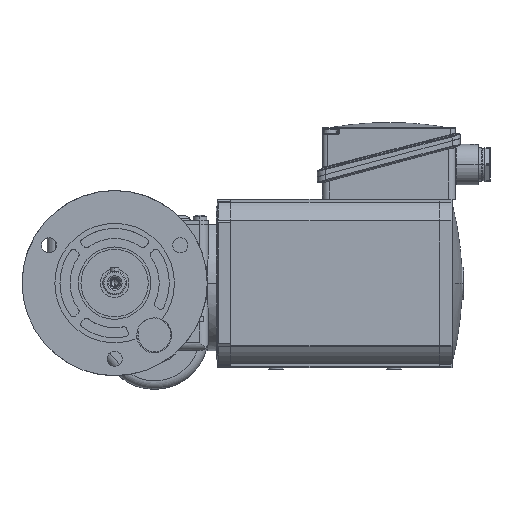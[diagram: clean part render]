
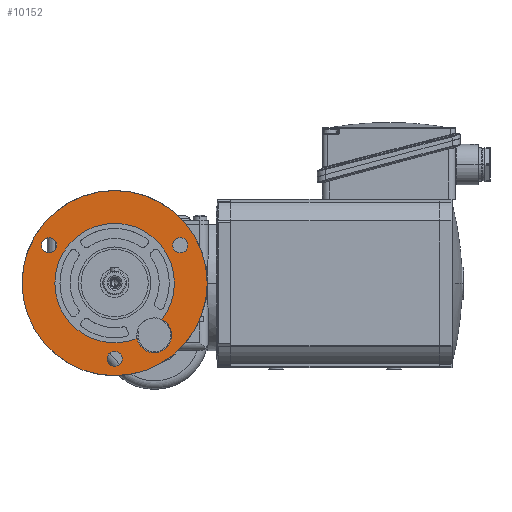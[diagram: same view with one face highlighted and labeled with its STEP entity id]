
A CAD part, top view. The second image highlights one B-rep face of the part: STEP entity #10152.
In plain terms, the highlighted planar face has unit normal (0, 0, 1).
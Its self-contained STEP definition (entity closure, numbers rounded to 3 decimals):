
#10152=ADVANCED_FACE('NONE',(#16752,#16753,#16754,#16755,#16756),#16757,.F.);
#16752=FACE_OUTER_BOUND('',#28414,.T.);
#16753=FACE_BOUND('',#28415,.T.);
#16754=FACE_BOUND('',#28416,.T.);
#16755=FACE_BOUND('',#28417,.T.);
#16756=FACE_BOUND('',#28418,.T.);
#16757=PLANE('',#28419);
#28414=EDGE_LOOP('',(#36745,#36746));
#28415=EDGE_LOOP('',(#36747,#36748));
#28416=EDGE_LOOP('',(#36749,#36750));
#28417=EDGE_LOOP('',(#36751,#36752));
#28418=EDGE_LOOP('',(#36753,#36754,#36755,#36756,#36757));
#28419=AXIS2_PLACEMENT_3D('',#36758,#36759,#36760);
#36745=ORIENTED_EDGE('',*,*,#46363,.T.);
#36746=ORIENTED_EDGE('',*,*,#46364,.T.);
#36747=ORIENTED_EDGE('',*,*,#44695,.F.);
#36748=ORIENTED_EDGE('',*,*,#45079,.F.);
#36749=ORIENTED_EDGE('',*,*,#46365,.F.);
#36750=ORIENTED_EDGE('',*,*,#46366,.F.);
#36751=ORIENTED_EDGE('',*,*,#46367,.F.);
#36752=ORIENTED_EDGE('',*,*,#46368,.F.);
#36753=ORIENTED_EDGE('',*,*,#46369,.F.);
#36754=ORIENTED_EDGE('',*,*,#46370,.F.);
#36755=ORIENTED_EDGE('',*,*,#45521,.F.);
#36756=ORIENTED_EDGE('',*,*,#46371,.F.);
#36757=ORIENTED_EDGE('',*,*,#46261,.F.);
#36758=CARTESIAN_POINT('',(-56.5,35.5,75.));
#36759=DIRECTION('',(0.0,0.,-1.0));
#36760=DIRECTION('',(0.0,-1.0,0.));
#44695=EDGE_CURVE('NONE',#51828,#51824,#51830,.T.);
#45079=EDGE_CURVE('NONE',#51824,#51828,#52477,.T.);
#45521=EDGE_CURVE('NONE',#53219,#53221,#53222,.T.);
#46261=EDGE_CURVE('NONE',#54433,#54435,#54436,.T.);
#46363=EDGE_CURVE('NONE',#54600,#54601,#54602,.T.);
#46364=EDGE_CURVE('NONE',#54601,#54600,#54603,.T.);
#46365=EDGE_CURVE('NONE',#54604,#54605,#54606,.T.);
#46366=EDGE_CURVE('NONE',#54605,#54604,#54607,.T.);
#46367=EDGE_CURVE('NONE',#54608,#54609,#54610,.T.);
#46368=EDGE_CURVE('NONE',#54609,#54608,#54611,.T.);
#46369=EDGE_CURVE('NONE',#54612,#54433,#54613,.T.);
#46370=EDGE_CURVE('NONE',#53221,#54612,#54614,.T.);
#46371=EDGE_CURVE('NONE',#54435,#53219,#54615,.T.);
#51824=VERTEX_POINT('',#63561);
#51828=VERTEX_POINT('',#63566);
#51830=CIRCLE('',#63569,4.5);
#52477=CIRCLE('',#64743,4.5);
#53219=VERTEX_POINT('',#66105);
#53221=VERTEX_POINT('',#66108);
#53222=CIRCLE('',#66109,35.5);
#54433=VERTEX_POINT('',#68079);
#54435=VERTEX_POINT('NONE',#68082);
#54436=CIRCLE('',#68083,10.35);
#54600=VERTEX_POINT('',#68391);
#54601=VERTEX_POINT('',#68392);
#54602=CIRCLE('',#68393,55.0);
#54603=CIRCLE('',#68394,55.0);
#54604=VERTEX_POINT('',#68395);
#54605=VERTEX_POINT('',#68396);
#54606=CIRCLE('',#68397,4.5);
#54607=CIRCLE('',#68398,4.5);
#54608=VERTEX_POINT('',#68399);
#54609=VERTEX_POINT('',#68400);
#54610=CIRCLE('',#68401,4.5);
#54611=CIRCLE('',#68402,4.5);
#54612=VERTEX_POINT('NONE',#68403);
#54613=CIRCLE('',#68404,10.35);
#54614=CIRCLE('',#68405,35.5);
#54615=CIRCLE('',#68406,35.5);
#63561=CARTESIAN_POINT('',(-13.029,22.5,75.));
#63566=CARTESIAN_POINT('',(-22.029,22.5,75.));
#63569=AXIS2_PLACEMENT_3D('',#84851,#84852,#84853);
#64743=AXIS2_PLACEMENT_3D('',#85338,#85339,#85340);
#66105=CARTESIAN_POINT('',(-21.0,0.,75.0));
#66108=CARTESIAN_POINT('',(-92.0,0.,75.0));
#66109=AXIS2_PLACEMENT_3D('',#85929,#85930,#85931);
#68079=CARTESIAN_POINT('',(-22.65,-31.,75.));
#68082=CARTESIAN_POINT('',(-28.419,-21.719,75.));
#68083=AXIS2_PLACEMENT_3D('',#86925,#86926,#86927);
#68391=CARTESIAN_POINT('',(-111.5,0.,75.0));
#68392=CARTESIAN_POINT('',(-1.5,0.,75.0));
#68393=AXIS2_PLACEMENT_3D('',#87038,#87039,#87040);
#68394=AXIS2_PLACEMENT_3D('',#87041,#87042,#87043);
#68395=CARTESIAN_POINT('',(-99.971,22.5,75.));
#68396=CARTESIAN_POINT('',(-90.971,22.5,75.));
#68397=AXIS2_PLACEMENT_3D('',#87044,#87045,#87046);
#68398=AXIS2_PLACEMENT_3D('',#87047,#87048,#87049);
#68399=CARTESIAN_POINT('',(-61.0,-45.,75.));
#68400=CARTESIAN_POINT('',(-52.0,-45.,75.));
#68401=AXIS2_PLACEMENT_3D('',#87050,#87051,#87052);
#68402=AXIS2_PLACEMENT_3D('',#87053,#87054,#87055);
#68403=CARTESIAN_POINT('',(-43.173,-32.904,75.));
#68404=AXIS2_PLACEMENT_3D('',#87056,#87057,#87058);
#68405=AXIS2_PLACEMENT_3D('',#87059,#87060,#87061);
#68406=AXIS2_PLACEMENT_3D('',#87062,#87063,#87064);
#84851=CARTESIAN_POINT('',(-17.529,22.5,75.));
#84852=DIRECTION('',(-0.0,0.,1.0));
#84853=DIRECTION('',(1.0,0.0,0.0));
#85338=CARTESIAN_POINT('',(-17.529,22.5,75.));
#85339=DIRECTION('',(-0.0,0.,1.0));
#85340=DIRECTION('',(1.0,0.0,0.0));
#85929=CARTESIAN_POINT('',(-56.5,0.,75.0));
#85930=DIRECTION('',(-0.0,0.,1.0));
#85931=DIRECTION('',(1.0,0.0,0.0));
#86925=CARTESIAN_POINT('',(-33.0,-31.,75.));
#86926=DIRECTION('',(0.0,0.,1.0));
#86927=DIRECTION('',(-1.0,0.0,0.0));
#87038=CARTESIAN_POINT('',(-56.5,0.,75.0));
#87039=DIRECTION('',(-0.0,0.,1.0));
#87040=DIRECTION('',(1.0,0.0,0.0));
#87041=CARTESIAN_POINT('',(-56.5,0.,75.0));
#87042=DIRECTION('',(-0.0,0.,1.0));
#87043=DIRECTION('',(1.0,0.0,0.0));
#87044=CARTESIAN_POINT('',(-95.471,22.5,75.));
#87045=DIRECTION('',(-0.0,0.,1.0));
#87046=DIRECTION('',(1.0,0.0,0.0));
#87047=CARTESIAN_POINT('',(-95.471,22.5,75.));
#87048=DIRECTION('',(-0.0,0.,1.0));
#87049=DIRECTION('',(1.0,0.0,0.0));
#87050=CARTESIAN_POINT('',(-56.5,-45.,75.));
#87051=DIRECTION('',(-0.0,0.,1.0));
#87052=DIRECTION('',(1.0,0.0,0.0));
#87053=CARTESIAN_POINT('',(-56.5,-45.,75.));
#87054=DIRECTION('',(-0.0,0.,1.0));
#87055=DIRECTION('',(1.0,0.0,0.0));
#87056=CARTESIAN_POINT('',(-33.0,-31.,75.));
#87057=DIRECTION('',(0.0,0.,1.0));
#87058=DIRECTION('',(-1.0,0.0,0.0));
#87059=CARTESIAN_POINT('',(-56.5,0.,75.0));
#87060=DIRECTION('',(-0.0,0.,1.0));
#87061=DIRECTION('',(1.0,0.0,0.0));
#87062=CARTESIAN_POINT('',(-56.5,0.,75.0));
#87063=DIRECTION('',(-0.0,0.,1.0));
#87064=DIRECTION('',(1.0,0.0,0.0));
